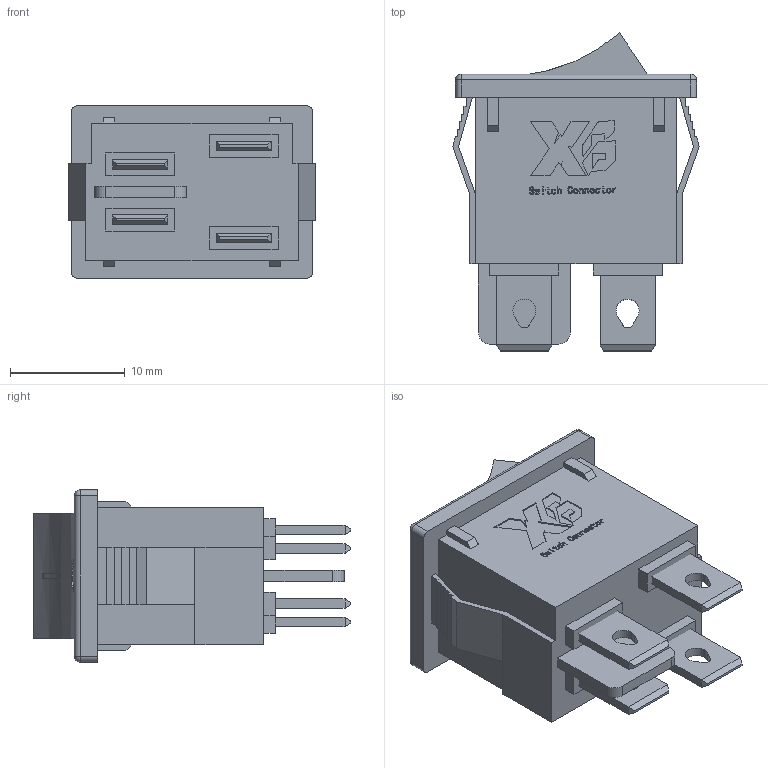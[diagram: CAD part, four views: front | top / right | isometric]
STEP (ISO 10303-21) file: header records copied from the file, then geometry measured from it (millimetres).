
FILE_DESCRIPTION (( 'STEP AP203' ), '1' );
FILE_NAME ('XB-RS601D1-1010011BB-ZP.STEP', '2023-04-21T12:45:01', ( '' ), ( '' ), 'SwSTEP 2.0', 'SolidWorks 2020', '' );
FILE_SCHEMA (( 'CONFIG_CONTROL_DESIGN' ));
Length unit declared in the file: millimetre
Products named in the file (3): XB-RS601D1-1010011BB-ZP-02; XB-RS601D1-1010011BB-ZP; XB-RS601D1A-01
Assembly tree (5 placements, depth 2):
  XB-RS601D1-1010011BB-ZP
    XB-RS601D1A-01
    XB-RS601D1-1010011BB-ZP-02  x4
Bounding box: 21.48 x 27.7 x 15 mm (x, y, z)
Volume: 3271.2 mm3; surface area: 3590.8 mm2
Topology: 6 solids, 6 shells, 433 faces, 1142 edges, 748 vertices
Faces by surface type: plane 302, bspline 86, cylinder 41, sphere 4
Entity records: 17425 total; most frequent: CARTESIAN_POINT 7983, ORIENTED_EDGE 2048, DIRECTION 1518, EDGE_CURVE 1024, LINE 792, VECTOR 792, VERTEX_POINT 676, EDGE_LOOP 422
